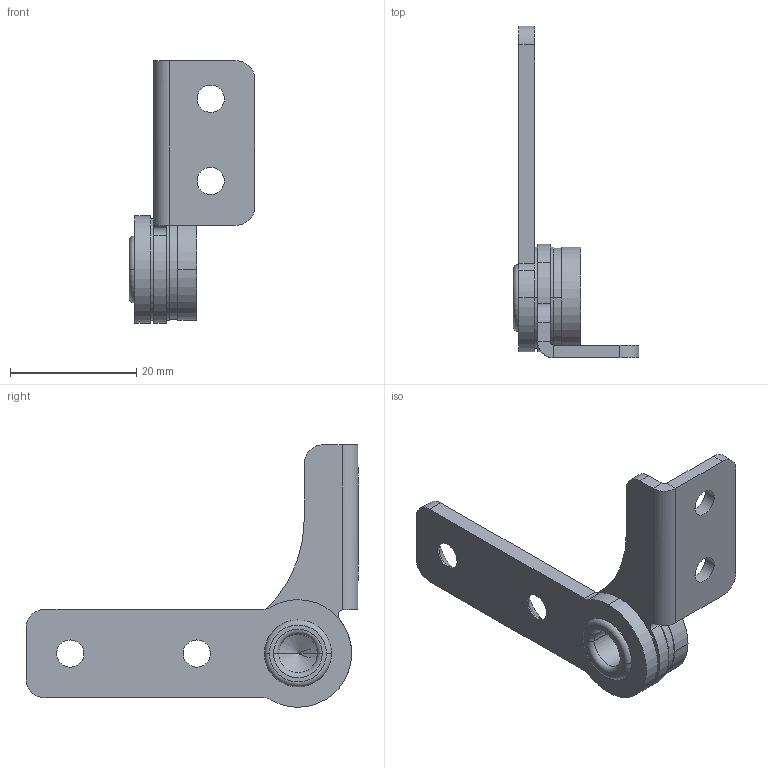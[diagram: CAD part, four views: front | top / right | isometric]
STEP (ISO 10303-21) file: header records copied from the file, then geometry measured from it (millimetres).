
FILE_DESCRIPTION (( 'STEP AP203' ), '1' );
FILE_NAME ('SC170-00995_HG-TB20R(-TB30R)_トルクヒンジ_0.step', '2012-05-14T02:48:07', ( ' ' ), ( '' ), 'SwSTEP 2.0', 'SolidWorks 2011', '' );
FILE_SCHEMA (( 'CONFIG_CONTROL_DESIGN' ));
Length unit declared in the file: millimetre
Products named in the file (6): SC170-00995_HG-TB20R(-TB30R)_トルクヒンジ_0; SC170-00993_HG-TB20_shaft; SC170-00985_springW-20; SC170-00981_F_plate20; SC170-00991_HG-TB20_arm; SC170-00988_bracket_B-R(20・30)
Assembly tree (6 placements, depth 2):
  SC170-00995_HG-TB20R(-TB30R)_トルクヒンジ_0
    SC170-00993_HG-TB20_shaft
    SC170-00985_springW-20
    SC170-00981_F_plate20  x2
    SC170-00988_bracket_B-R(20・30)
    SC170-00991_HG-TB20_arm
Bounding box: 19.9 x 52.5 x 41.5 mm (x, y, z)
Volume: 4172.2 mm3; surface area: 5497.9 mm2
Topology: 6 solids, 6 shells, 83 faces, 189 edges, 119 vertices
Faces by surface type: cylinder 47, plane 25, cone 6, torus 4, bspline 1
Entity records: 2931 total; most frequent: DIRECTION 439, CARTESIAN_POINT 425, ORIENTED_EDGE 350, AXIS2_PLACEMENT_3D 181, EDGE_CURVE 175, VERTEX_POINT 111, EDGE_LOOP 96, CIRCLE 96
